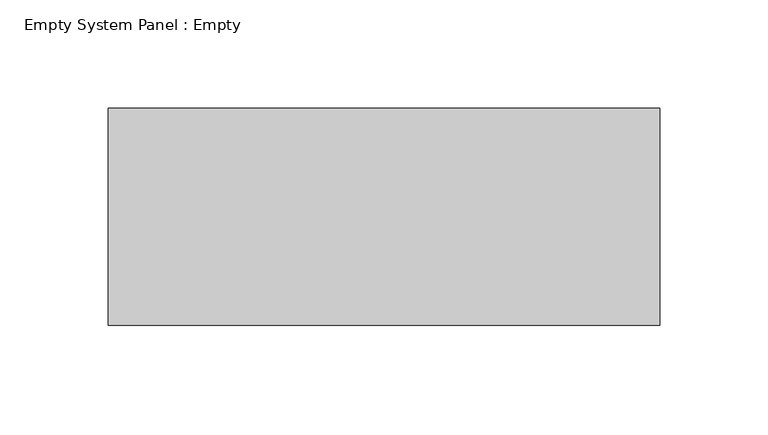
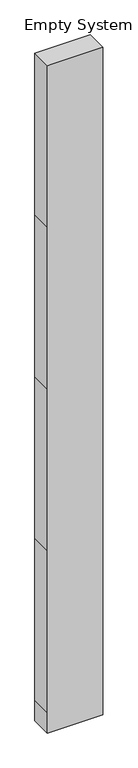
"""IFC4 building model written with IfcOpenShell, lengths in millimetres: plate geometry, Empty System Panel : Empty."""

from ifc_helpers import new_model, si_unit, frame, origin, place, context, project, spatial, polyline, outline, extrude, source, transform, mapped, element, save


def empty_system_panel_empty_fa8af258(model_context):
    return source(origin(), model_context, "Body", "SweptSolid", [
        extrude(outline(polyline([(0.0, -127.1), (0.0, 127.1), (100.0, 127.1), (887.95, 127.1), (1675.9, 127.1), (2463.85, 127.1), (3251.8, 127.1), (3251.8, -127.1), (2463.85, -127.1), (1675.9, -127.1), (887.95, -127.1), (100.0, -127.1), (0.0, -127.1)])), frame((0.0, -50.0, 0.0), z_axis=(0.0, 1.0, 0.0), x_axis=(0.0, 0.0, 1.0)), (0.0, 0.0, 1.0), 100.0),
    ])


if __name__ == "__main__":
    model = new_model("IFC4")
    model_context = context("Model", 3, world=origin())
    ifc_project = project(units=[si_unit("LENGTHUNIT", "METRE", prefix="MILLI")], contexts=[model_context])
    site = spatial("IfcSite", under=ifc_project)
    building = spatial("IfcBuilding", under=site)
    placement = place(None, origin())
    empty_system_panel_empty_shape = empty_system_panel_empty_fa8af258(model_context)
    element("IfcPlate", 1, ObjectType="Empty System Panel : Empty", at=placement, inside=building, context=model_context, shape_type="MappedRepresentation", body=[
        mapped(empty_system_panel_empty_shape, transform((0.0, 0.0, 0.0), x_axis=(1.0, 0.0, 0.0), y_axis=(0.0, 1.0, 0.0), z_axis=(0.0, 0.0, 1.0))),
    ])
    save(model, "model.ifc")
